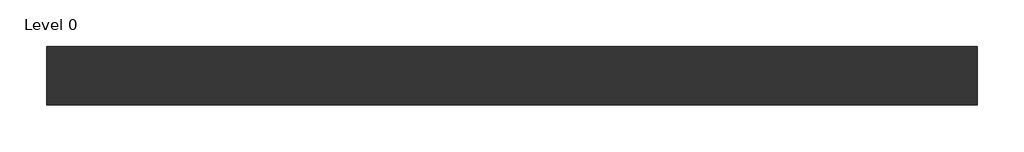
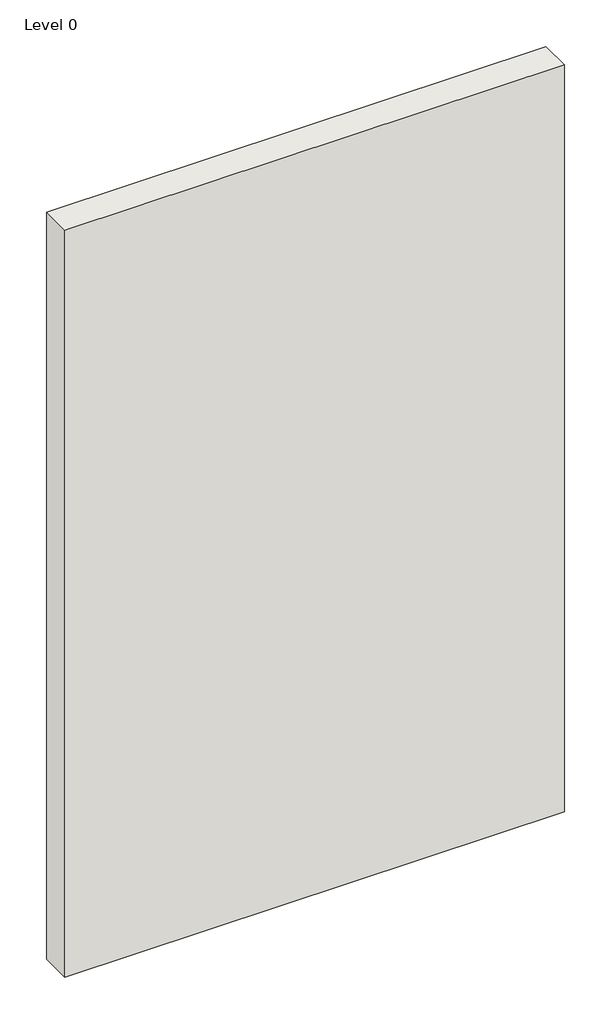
# One storey: 1 wall.
"""IFC4 building model written with IfcOpenShell, lengths in millimetres."""

from ifc_helpers import new_model, si_unit, origin, origin_with_axes, place, context, project, spatial, polyline, outline, extrude, element, save

model = new_model("IFC4")

# Units and contexts
model_context = context("Model", 3, world=origin())
ifc_project = project(units=[si_unit("LENGTHUNIT", "METRE", prefix="MILLI")], contexts=[model_context])

# Site, building, storey
site = spatial("IfcSite", under=ifc_project)
building = spatial("IfcBuilding", under=site)
storey = spatial("IfcBuildingStorey", under=building, Name="Level 0", Elevation=0.0)

# Wall
placement = place(None, origin())
element("IfcWall", 1, ObjectType="A233007 - GypWall Staggered", at=placement, inside=storey, context=model_context, shape_type="SweptSolid", body=[
    extrude(outline(polyline([(1155.997948, 457.2669953), (-1944.002052, 457.2669953), (-1944.002052, 653.2669953), (1155.997948, 653.2669953), (1155.997948, 457.2669953)])), origin_with_axes(), (0.0, 0.0, 1.0), 4900.0),
])

save(model, "model.ifc")
